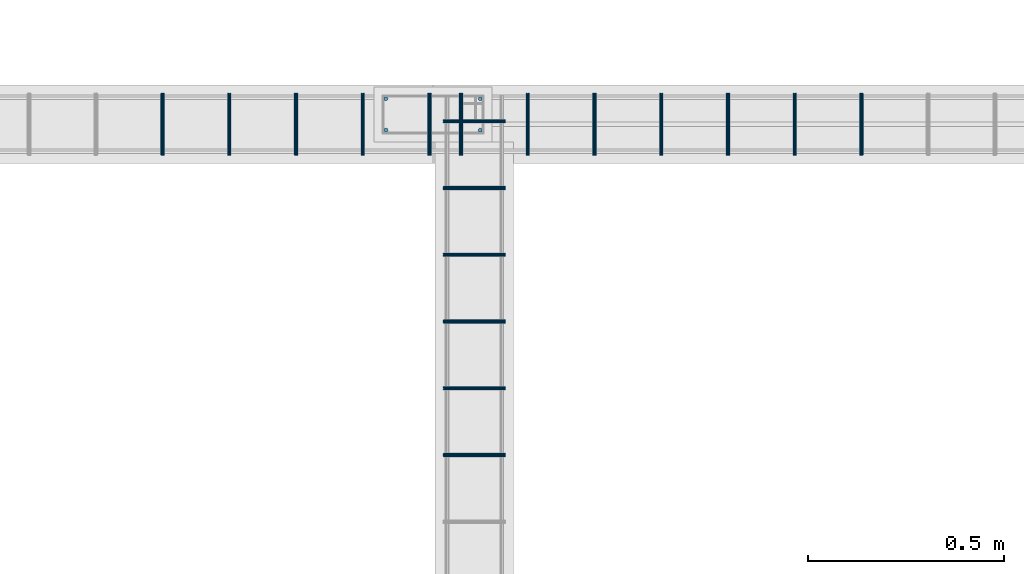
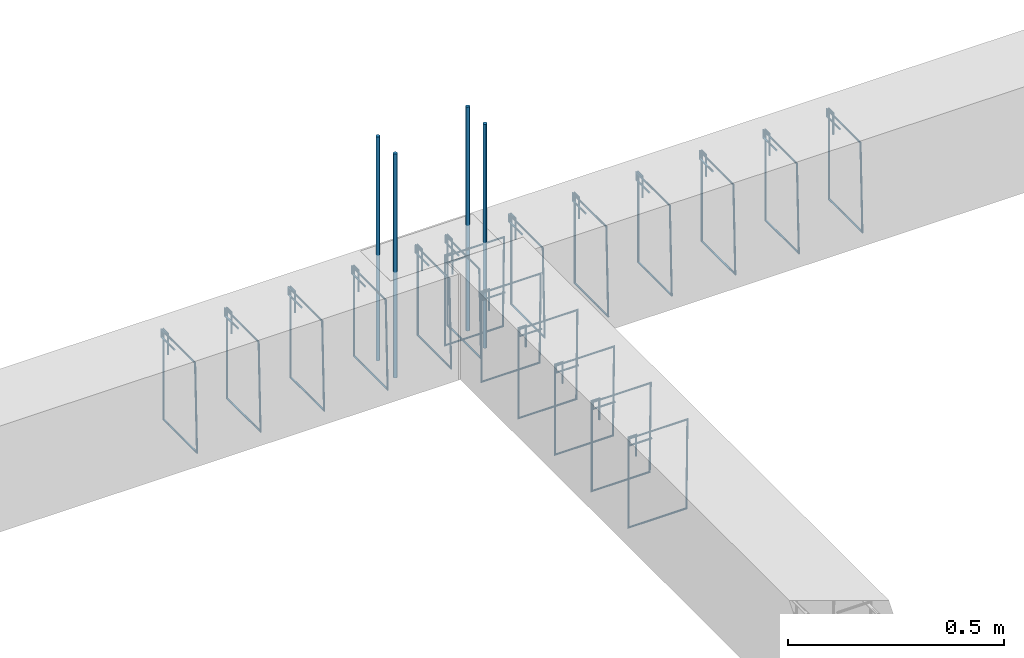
# One storey, part 31 of 150: 22 reinforcing bars.
"""IFC4 building model written with IfcOpenShell, lengths in centimetres."""

from ifc_helpers import new_model, entity, si_unit, derived_unit, frame, origin_with_axes, place, context, project, spatial, source, transform, mapped, element, save


model = new_model("IFC4")

# Units and contexts
model_context = context("Model", 3, precision=1e-05, world=origin_with_axes(), identifier="Body")
ifc_project = project(units=[si_unit("LENGTHUNIT", "METRE", prefix="CENTI"), si_unit("VOLUMEUNIT", "CUBIC_METRE"), si_unit("AREAUNIT", "SQUARE_METRE"), si_unit("POWERUNIT", "WATT"), si_unit("LUMINOUSFLUXUNIT", "LUMEN"), si_unit("ELECTRICCURRENTUNIT", "AMPERE"), si_unit("PRESSUREUNIT", "PASCAL", prefix="KILO"), si_unit("MASSUNIT", "GRAM", prefix="KILO"), si_unit("PLANEANGLEUNIT", "RADIAN"), derived_unit("VOLUMETRICFLOWRATEUNIT", [(si_unit("LENGTHUNIT", "METRE"), 3), (si_unit("TIMEUNIT", "SECOND"), -1)])], contexts=[model_context])

# Site, building, storey
site_placement = place(None, frame((-4000.0, 0.0, 0.0), z_axis=(0.0, 0.0, 1.0), x_axis=(1.0, 0.0, 0.0)))
site = spatial("IfcSite", under=ifc_project, at=site_placement, Name="PADRÃO")
building_placement = place(site_placement, frame((0.0, 0.0, -14.0)))
building = spatial("IfcBuilding", under=site, at=building_placement, Name="CRECHE PRÉ-ESCOLA TIPO 2")
placement = place(building_placement, origin_with_axes())
storey_placement = place(placement, frame((0.0, 0.0, 30.0), z_axis=(0.0, 0.0, 1.0), x_axis=(1.0, 0.0, 0.0)))
storey = spatial("IfcBuildingStorey", under=building, at=storey_placement, Name="VIGA BALDRAME", CompositionType="ELEMENT", Elevation=16.0)

# Reinforcing bars
shared_shape_1 = source(origin_with_axes(), model_context, "Body", "AdvancedSweptSolid", [
    entity("IfcSweptDiskSolid", entity("IfcCompositeCurve", [entity("IfcCompositeCurveSegment", "CONTINUOUS", True, entity("IfcPolyline", [entity("IfcCartesianPoint", [2.0, -6.0, 0.0]), entity("IfcCartesianPoint", [2.0, 0.0, 0.0])])), entity("IfcCompositeCurveSegment", "CONTINUOUS", True, entity("IfcPolyline", [entity("IfcCartesianPoint", [2.0, 0.0, 0.0]), entity("IfcCartesianPoint", [0.0, 0.0, 0.0])])), entity("IfcCompositeCurveSegment", "CONTINUOUS", True, entity("IfcPolyline", [entity("IfcCartesianPoint", [0.0, 0.0, 0.0]), entity("IfcCartesianPoint", [0.0, -25.5, 0.0])])), entity("IfcCompositeCurveSegment", "CONTINUOUS", True, entity("IfcPolyline", [entity("IfcCartesianPoint", [0.0, -25.5, 0.0]), entity("IfcCartesianPoint", [15.5, -25.5, 0.0])])), entity("IfcCompositeCurveSegment", "CONTINUOUS", True, entity("IfcPolyline", [entity("IfcCartesianPoint", [15.5, -25.5, 0.0]), entity("IfcCartesianPoint", [15.5, 0.0, 0.5])])), entity("IfcCompositeCurveSegment", "CONTINUOUS", True, entity("IfcPolyline", [entity("IfcCartesianPoint", [15.5, 0.0, 0.5]), entity("IfcCartesianPoint", [0.0, 0.0, 0.5])])), entity("IfcCompositeCurveSegment", "CONTINUOUS", True, entity("IfcPolyline", [entity("IfcCartesianPoint", [0.0, 0.0, 0.5]), entity("IfcCartesianPoint", [0.0, -2.0, 0.5])])), entity("IfcCompositeCurveSegment", "CONTINUOUS", True, entity("IfcPolyline", [entity("IfcCartesianPoint", [0.0, -2.0, 0.5]), entity("IfcCartesianPoint", [6.0, -2.0, 0.5])]))], False), 0.25),
])
for number, where, z_axis, x_axis, name in (
    (1, (684.345, 1307.75, -2.25), (-1.0, 0.0, 0.0), (0.0, -1.0, 0.0), "V136 - Estribo"),
    (2, (667.345, 1307.75, -2.25), (-1.0, 0.0, 0.0), (0.0, -1.0, 0.0), "V136 - Estribo"),
    (3, (650.345, 1307.75, -2.25), (-1.0, 0.0, 0.0), (0.0, -1.0, 0.0), "V136 - Estribo"),
    (4, (633.345, 1307.75, -2.25), (-1.0, 0.0, 0.0), (0.0, -1.0, 0.0), "V136 - Estribo"),
    (5, (616.345, 1307.75, -2.25), (-1.0, 0.0, 0.0), (0.0, -1.0, 0.0), "V136 - Estribo"),
):
    element("IfcReinforcingBar", number, at=place(storey_placement, frame(where, z_axis=z_axis, x_axis=x_axis)), inside=storey, Name=name, BarLength=0.0, CrossSectionArea=1.9634954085e-05, NominalDiameter=0.5, PredefinedType="MAIN", context=model_context, shape_type="MappedRepresentation", body=[
        mapped(shared_shape_1, transform((0.0, 0.0, 0.0), scale=1.0)),
    ])
shared_shape_2 = source(origin_with_axes(), model_context, "Body", "AdvancedSweptSolid", [
    entity("IfcSweptDiskSolid", entity("IfcCompositeCurve", [entity("IfcCompositeCurveSegment", "CONTINUOUS", True, entity("IfcPolyline", [entity("IfcCartesianPoint", [2.0, -6.0, 0.0]), entity("IfcCartesianPoint", [2.0, 0.0, 0.0])])), entity("IfcCompositeCurveSegment", "CONTINUOUS", True, entity("IfcPolyline", [entity("IfcCartesianPoint", [2.0, 0.0, 0.0]), entity("IfcCartesianPoint", [0.0, 0.0, 0.0])])), entity("IfcCompositeCurveSegment", "CONTINUOUS", True, entity("IfcPolyline", [entity("IfcCartesianPoint", [0.0, 0.0, 0.0]), entity("IfcCartesianPoint", [0.0, -25.5, 0.0])])), entity("IfcCompositeCurveSegment", "CONTINUOUS", True, entity("IfcPolyline", [entity("IfcCartesianPoint", [0.0, -25.5, 0.0]), entity("IfcCartesianPoint", [15.5, -25.5, 0.0])])), entity("IfcCompositeCurveSegment", "CONTINUOUS", True, entity("IfcPolyline", [entity("IfcCartesianPoint", [15.5, -25.5, 0.0]), entity("IfcCartesianPoint", [15.5, 0.0, 0.5])])), entity("IfcCompositeCurveSegment", "CONTINUOUS", True, entity("IfcPolyline", [entity("IfcCartesianPoint", [15.5, 0.0, 0.5]), entity("IfcCartesianPoint", [0.0, 0.0, 0.5])])), entity("IfcCompositeCurveSegment", "CONTINUOUS", True, entity("IfcPolyline", [entity("IfcCartesianPoint", [0.0, 0.0, 0.5]), entity("IfcCartesianPoint", [0.0, -2.0, 0.5])])), entity("IfcCompositeCurveSegment", "CONTINUOUS", True, entity("IfcPolyline", [entity("IfcCartesianPoint", [0.0, -2.0, 0.5]), entity("IfcCartesianPoint", [6.0, -2.0, 0.5])]))], False), 0.25),
])
for number, where, z_axis, x_axis, name in (
    (6, (794.36, 1307.75, -2.25), (-1.0, 0.0, 0.0), (0.0, -1.0, 0.0), "V136 - Estribo"),
    (7, (777.36, 1307.75, -2.25), (-1.0, 0.0, 0.0), (0.0, -1.0, 0.0), "V136 - Estribo"),
    (8, (760.36, 1307.75, -2.25), (-1.0, 0.0, 0.0), (0.0, -1.0, 0.0), "V136 - Estribo"),
    (9, (743.36, 1307.75, -2.25), (-1.0, 0.0, 0.0), (0.0, -1.0, 0.0), "V136 - Estribo"),
    (10, (726.36, 1307.75, -2.25), (-1.0, 0.0, 0.0), (0.0, -1.0, 0.0), "V136 - Estribo"),
    (11, (709.36, 1307.75, -2.25), (-1.0, 0.0, 0.0), (0.0, -1.0, 0.0), "V136 - Estribo"),
    (12, (692.36, 1307.75, -2.25), (-1.0, 0.0, 0.0), (0.0, -1.0, 0.0), "V136 - Estribo"),
):
    element("IfcReinforcingBar", number, at=place(storey_placement, frame(where, z_axis=z_axis, x_axis=x_axis)), inside=storey, Name=name, BarLength=0.0, CrossSectionArea=1.9634954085e-05, NominalDiameter=0.5, PredefinedType="MAIN", context=model_context, shape_type="MappedRepresentation", body=[
        mapped(shared_shape_2, transform((0.0, 0.0, 0.0), scale=1.0)),
    ])
shared_shape_3 = source(origin_with_axes(), model_context, "Body", "AdvancedSweptSolid", [
    entity("IfcSweptDiskSolid", entity("IfcCompositeCurve", [entity("IfcCompositeCurveSegment", "CONTINUOUS", True, entity("IfcPolyline", [entity("IfcCartesianPoint", [2.0, -6.0, 0.0]), entity("IfcCartesianPoint", [2.0, 0.0, 0.0])])), entity("IfcCompositeCurveSegment", "CONTINUOUS", True, entity("IfcPolyline", [entity("IfcCartesianPoint", [2.0, 0.0, 0.0]), entity("IfcCartesianPoint", [0.0, 0.0, 0.0])])), entity("IfcCompositeCurveSegment", "CONTINUOUS", True, entity("IfcPolyline", [entity("IfcCartesianPoint", [0.0, 0.0, 0.0]), entity("IfcCartesianPoint", [0.0, -25.5, 0.0])])), entity("IfcCompositeCurveSegment", "CONTINUOUS", True, entity("IfcPolyline", [entity("IfcCartesianPoint", [0.0, -25.5, 0.0]), entity("IfcCartesianPoint", [15.5, -25.5, 0.0])])), entity("IfcCompositeCurveSegment", "CONTINUOUS", True, entity("IfcPolyline", [entity("IfcCartesianPoint", [15.5, -25.5, 0.0]), entity("IfcCartesianPoint", [15.5, 0.0, 0.5])])), entity("IfcCompositeCurveSegment", "CONTINUOUS", True, entity("IfcPolyline", [entity("IfcCartesianPoint", [15.5, 0.0, 0.5]), entity("IfcCartesianPoint", [0.0, 0.0, 0.5])])), entity("IfcCompositeCurveSegment", "CONTINUOUS", True, entity("IfcPolyline", [entity("IfcCartesianPoint", [0.0, 0.0, 0.5]), entity("IfcCartesianPoint", [0.0, -2.0, 0.5])])), entity("IfcCompositeCurveSegment", "CONTINUOUS", True, entity("IfcPolyline", [entity("IfcCartesianPoint", [0.0, -2.0, 0.5]), entity("IfcCartesianPoint", [6.0, -2.0, 0.5])]))], False), 0.25),
])
for number, where, z_axis, x_axis, name in (
    (13, (687.75, 1284.005, -2.25), (0.0, -1.0, 0.0), (1.0, 0.0, 0.0), "V175 - Estribo"),
    (14, (687.75, 1301.005, -2.25), (0.0, -1.0, 0.0), (1.0, 0.0, 0.0), "V175 - Estribo"),
    (15, (687.75, 1216.005, -2.25), (0.0, -1.0, 0.0), (1.0, 0.0, 0.0), "V175 - Estribo"),
    (16, (687.75, 1233.005, -2.25), (0.0, -1.0, 0.0), (1.0, 0.0, 0.0), "V175 - Estribo"),
    (17, (687.75, 1250.005, -2.25), (0.0, -1.0, 0.0), (1.0, 0.0, 0.0), "V175 - Estribo"),
    (18, (687.75, 1267.005, -2.25), (0.0, -1.0, 0.0), (1.0, 0.0, 0.0), "V175 - Estribo"),
):
    element("IfcReinforcingBar", number, at=place(storey_placement, frame(where, z_axis=z_axis, x_axis=x_axis)), inside=storey, Name=name, BarLength=0.0, CrossSectionArea=1.9634954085e-05, NominalDiameter=0.5, PredefinedType="MAIN", context=model_context, shape_type="MappedRepresentation", body=[
        mapped(shared_shape_3, transform((0.0, 0.0, 0.0), scale=1.0)),
    ])
for number, where, z_axis, x_axis, name in (
    (19, (697.0, 1306.5, 33.3573001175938), (0.0, 0.0, 1.0), (1.0, 0.0, 0.0), "P108 - Longitudinal"),
    (20, (673.0, 1298.5, 33.3573001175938), (0.0, 0.0, 1.0), (1.0, 0.0, 0.0), "P108 - Longitudinal"),
    (21, (697.0, 1298.5, 33.3573001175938), (0.0, 0.0, 1.0), (1.0, 0.0, 0.0), "P108 - Longitudinal"),
    (22, (673.0, 1306.5, 33.3573001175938), (0.0, 0.0, 1.0), (1.0, 0.0, 0.0), "P108 - Longitudinal"),
):
    element("IfcReinforcingBar", number, at=place(storey_placement, frame(where, z_axis=z_axis, x_axis=x_axis)), inside=storey, Name=name, BarLength=0.0, CrossSectionArea=7.853981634e-05, NominalDiameter=1.0, PredefinedType="MAIN", context=model_context, shape_type="AdvancedSweptSolid", body=[
        entity("IfcSweptDiskSolid", entity("IfcCompositeCurve", [entity("IfcCompositeCurveSegment", "CONTINUOUS", True, entity("IfcPolyline", [entity("IfcCartesianPoint", [0.0, 0.0, -63.3573001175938]), entity("IfcCartesianPoint", [0.0, 0.0, 0.0])]))], False), 0.5),
    ])

save(model, "model.ifc")
